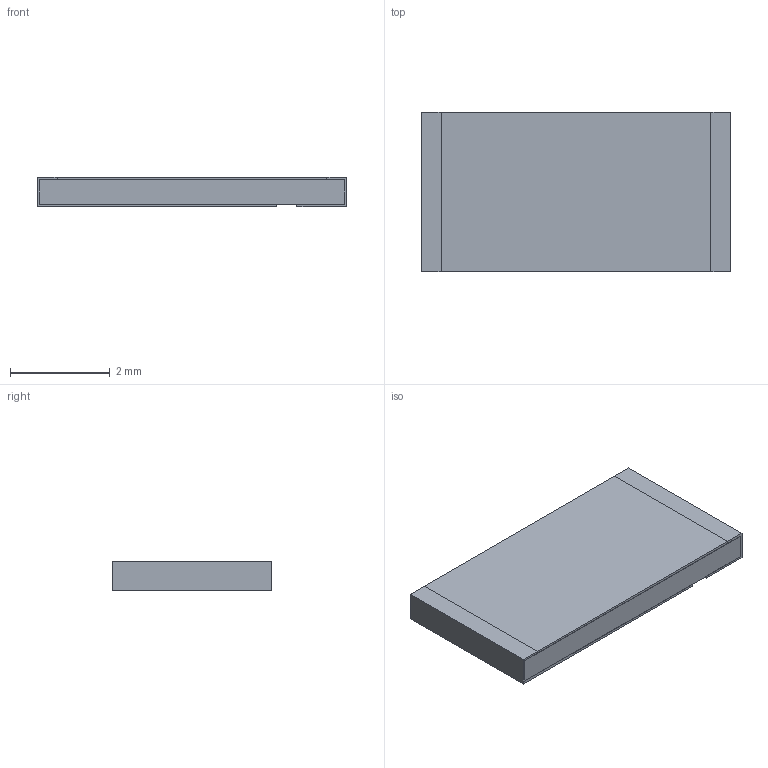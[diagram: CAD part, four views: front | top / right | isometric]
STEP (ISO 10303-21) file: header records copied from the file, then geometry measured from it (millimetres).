
FILE_DESCRIPTION(('STEP AP203'), '1');
FILE_NAME('P1-85-10-1', '', ('UNSPECIFIED'), ('UNSPECIFIED'), 'ASCON STEP Converter 1.6', 'ASCON Math Kernel', '');
FILE_SCHEMA(('CONFIG_CONTROL_DESIGN'));
Length unit declared in the file: millimetre
Bounding box: 6.2 x 3.2 x 0.6 mm (x, y, z)
Volume: 11.8 mm3; surface area: 134.9 mm2
Topology: 4 solids, 5 shells, 51 faces, 123 edges, 82 vertices
Faces by surface type: plane 47, cylinder 4
Entity records: 1937 total; most frequent: CARTESIAN_POINT 257, ORIENTED_EDGE 246, DIRECTION 235, EDGE_CURVE 123, LINE 115, VECTOR 115, VERTEX_POINT 82, AXIS2_PLACEMENT_3D 60
